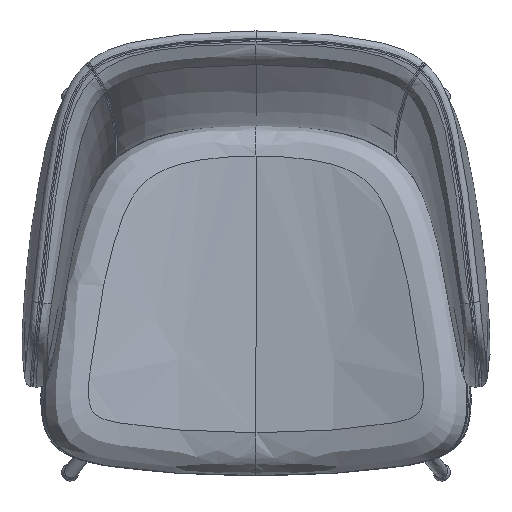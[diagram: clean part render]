
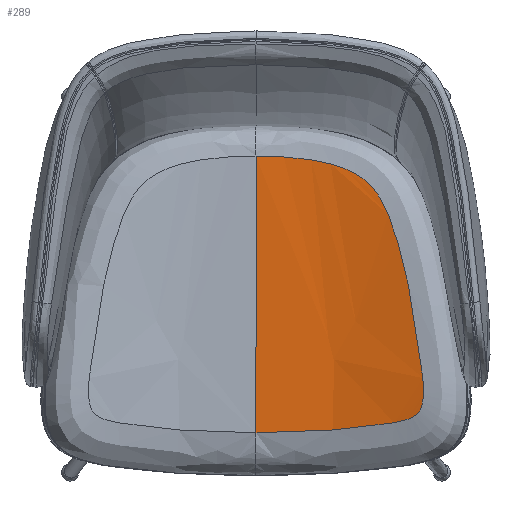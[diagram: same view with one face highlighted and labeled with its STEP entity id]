
A CAD part, top view. The second image highlights one B-rep face of the part: STEP entity #289.
In plain terms, the highlighted free-form (B-spline) face has degree [2, 1] with [3, 2] control points.
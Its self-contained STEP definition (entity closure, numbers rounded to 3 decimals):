
#289=ADVANCED_FACE('',(#423),#1675,.T.);
#423=FACE_OUTER_BOUND('',#557,.T.);
#557=EDGE_LOOP('',(#1027,#1028));
#1027=ORIENTED_EDGE('',*,*,#1338,.T.);
#1028=ORIENTED_EDGE('',*,*,#1337,.F.);
#1337=EDGE_CURVE('',#1619,#1620,#1930,.T.);
#1338=EDGE_CURVE('',#1619,#1620,#1931,.T.);
#1619=VERTEX_POINT('',#26494);
#1620=VERTEX_POINT('',#26495);
#1675=(
BOUNDED_SURFACE()
B_SPLINE_SURFACE(2,1,((#25584,#25585),(#25586,#25587),(#25588,#25589)),
 .UNSPECIFIED.,.F.,.F.,.F.)
B_SPLINE_SURFACE_WITH_KNOTS((3,3),(2,2),(0.,564.196),(0.,519.874),
 .UNSPECIFIED.)
GEOMETRIC_REPRESENTATION_ITEM()
RATIONAL_B_SPLINE_SURFACE(((1.,1.),(0.904,0.904),
(1.,1.)))
REPRESENTATION_ITEM('')
SURFACE()
);
#1930=B_SPLINE_CURVE_WITH_KNOTS('',1,(#26500,#26501),.UNSPECIFIED.,.F.,
 .F.,(2,2),(85.522,440.522),.UNSPECIFIED.);
#1931=B_SPLINE_CURVE_WITH_KNOTS('',3,(#26502,#26503,#26504,#26505,#26506,
#26507,#26508,#26509,#26510,#26511,#26512,#26513,#26514,#26515,#26516,#26517,
#26518,#26519,#26520,#26521,#26522,#26523,#26524,#26525,#26526,#26527,#26528,
#26529,#26530,#26531,#26532,#26533,#26534,#26535,#26536,#26537,#26538,#26539,
#26540,#26541,#26542,#26543,#26544,#26545,#26546,#26547,#26548,#26549,#26550,
#26551,#26552,#26553,#26554,#26555,#26556,#26557,#26558,#26559,#26560,#26561,
#26562,#26563,#26564,#26565,#26566),.UNSPECIFIED.,.F.,.F.,(4,2,2,2,2,1,
1,1,2,2,2,2,2,2,1,1,1,2,2,2,2,2,2,1,1,1,2,2,1,1,1,2,2,2,1,1,1,2,2,4),(0.,
104.587,156.88,183.027,196.1,202.637,
209.173,215.71,229.003,238.918,248.832,
258.747,268.662,278.577,283.534,288.491,
293.449,302.826,317.162,345.832,403.172,
460.512,489.182,503.517,517.852,532.187,
552.207,569.385,578.515,586.562,594.609,
602.656,618.75,634.843,642.89,650.937,
658.984,679.714,708.491,766.045),
 .UNSPECIFIED.);
#25584=CARTESIAN_POINT('',(-273.052,-291.373,521.171));
#25585=CARTESIAN_POINT('',(-273.052,228.502,521.171));
#25586=CARTESIAN_POINT('',(0.,-291.373,392.364));
#25587=CARTESIAN_POINT('',(0.,228.502,392.364));
#25588=CARTESIAN_POINT('',(273.052,-291.373,521.171));
#25589=CARTESIAN_POINT('',(273.052,228.502,521.171));
#26494=CARTESIAN_POINT('',(0.,-205.851,460.));
#26495=CARTESIAN_POINT('',(0.,149.149,460.));
#26500=CARTESIAN_POINT('',(0.,-205.851,460.));
#26501=CARTESIAN_POINT('',(0.,149.149,460.));
#26502=CARTESIAN_POINT('',(0.,-205.851,460.));
#26503=CARTESIAN_POINT('',(32.595,-205.851,459.998));
#26504=CARTESIAN_POINT('',(65.191,-204.707,462.498));
#26505=CARTESIAN_POINT('',(113.393,-201.245,469.916));
#26506=CARTESIAN_POINT('',(129.348,-199.803,472.998));
#26507=CARTESIAN_POINT('',(152.995,-196.948,478.504));
#26508=CARTESIAN_POINT('',(160.828,-195.874,480.485));
#26509=CARTESIAN_POINT('',(172.477,-193.946,483.666));
#26510=CARTESIAN_POINT('',(176.325,-193.264,484.756));
#26511=CARTESIAN_POINT('',(182.126,-192.091,486.459));
#26512=CARTESIAN_POINT('',(185.728,-191.337,487.529));
#26513=CARTESIAN_POINT('',(192.209,-189.573,489.538));
#26514=CARTESIAN_POINT('',(195.735,-188.386,490.661));
#26515=CARTESIAN_POINT('',(199.266,-186.96,491.807));
#26516=CARTESIAN_POINT('',(202.779,-184.998,492.972));
#26517=CARTESIAN_POINT('',(204.261,-184.016,493.469));
#26518=CARTESIAN_POINT('',(206.947,-181.74,494.381));
#26519=CARTESIAN_POINT('',(208.168,-180.437,494.8));
#26520=CARTESIAN_POINT('',(210.246,-177.534,495.519));
#26521=CARTESIAN_POINT('',(211.107,-175.946,495.819));
#26522=CARTESIAN_POINT('',(212.491,-172.616,496.305));
#26523=CARTESIAN_POINT('',(213.019,-170.876,496.491));
#26524=CARTESIAN_POINT('',(213.834,-167.346,496.779));
#26525=CARTESIAN_POINT('',(214.124,-165.534,496.883));
#26526=CARTESIAN_POINT('',(214.453,-162.865,496.999));
#26527=CARTESIAN_POINT('',(214.64,-160.854,497.066));
#26528=CARTESIAN_POINT('',(214.8,-158.871,497.123));
#26529=CARTESIAN_POINT('',(215.033,-151.876,497.206));
#26530=CARTESIAN_POINT('',(214.909,-147.514,497.162));
#26531=CARTESIAN_POINT('',(214.619,-139.821,497.058));
#26532=CARTESIAN_POINT('',(214.314,-135.233,496.95));
#26533=CARTESIAN_POINT('',(213.152,-121.424,496.538));
#26534=CARTESIAN_POINT('',(212.076,-112.257,496.158));
#26535=CARTESIAN_POINT('',(208.37,-84.822,494.865));
#26536=CARTESIAN_POINT('',(205.301,-66.627,493.811));
#26537=CARTESIAN_POINT('',(198.557,-30.368,491.57));
#26538=CARTESIAN_POINT('',(194.856,-12.302,490.369));
#26539=CARTESIAN_POINT('',(188.523,14.609,488.392));
#26540=CARTESIAN_POINT('',(186.28,23.534,487.704));
#26541=CARTESIAN_POINT('',(182.602,36.878,486.601));
#26542=CARTESIAN_POINT('',(180.108,45.581,485.86));
#26543=CARTESIAN_POINT('',(175.69,59.26,484.582));
#26544=CARTESIAN_POINT('',(171.082,71.736,483.283));
#26545=CARTESIAN_POINT('',(167.133,80.889,482.203));
#26546=CARTESIAN_POINT('',(162.426,90.325,480.95));
#26547=CARTESIAN_POINT('',(160.048,94.606,480.329));
#26548=CARTESIAN_POINT('',(155.992,100.878,479.3));
#26549=CARTESIAN_POINT('',(153.227,104.855,478.607));
#26550=CARTESIAN_POINT('',(148.585,110.435,477.481));
#26551=CARTESIAN_POINT('',(144.078,115.015,476.422));
#26552=CARTESIAN_POINT('',(140.78,117.901,475.673));
#26553=CARTESIAN_POINT('',(135.703,121.987,474.543));
#26554=CARTESIAN_POINT('',(132.099,124.439,473.77));
#26555=CARTESIAN_POINT('',(124.593,128.815,472.233));
#26556=CARTESIAN_POINT('',(120.672,130.726,471.466));
#26557=CARTESIAN_POINT('',(114.663,133.23,470.352));
#26558=CARTESIAN_POINT('',(110.528,134.808,469.607));
#26559=CARTESIAN_POINT('',(104.58,136.779,468.59));
#26560=CARTESIAN_POINT('',(93.571,139.98,466.83));
#26561=CARTESIAN_POINT('',(85.134,141.89,465.658));
#26562=CARTESIAN_POINT('',(70.3,144.746,463.813));
#26563=CARTESIAN_POINT('',(61.607,146.002,462.912));
#26564=CARTESIAN_POINT('',(35.337,148.719,460.734));
#26565=CARTESIAN_POINT('',(17.656,149.155,459.999));
#26566=CARTESIAN_POINT('',(0.,149.149,460.));
